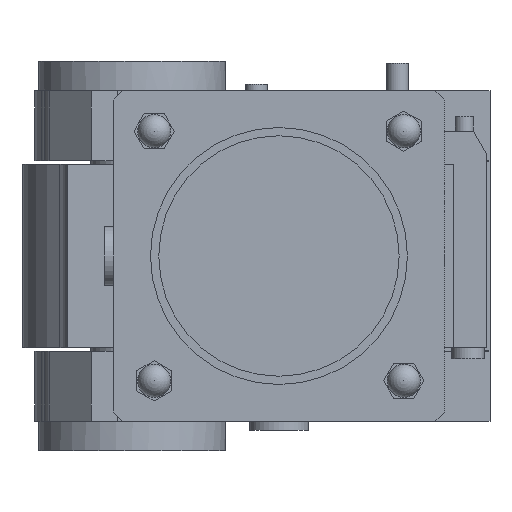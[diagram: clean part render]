
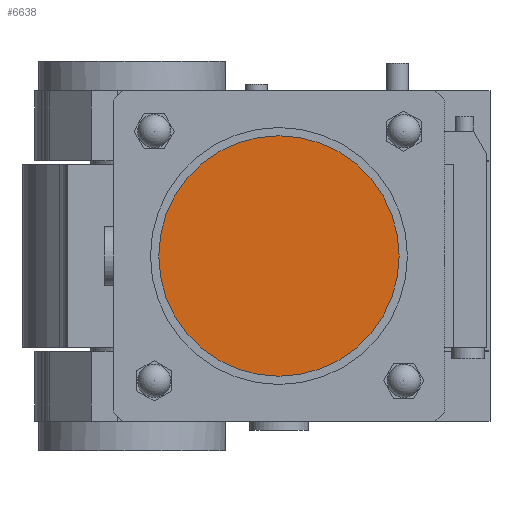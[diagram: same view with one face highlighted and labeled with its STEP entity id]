
A CAD part, front view. The second image highlights one B-rep face of the part: STEP entity #6638.
In plain terms, the highlighted planar face has unit normal (0, -1, 0).
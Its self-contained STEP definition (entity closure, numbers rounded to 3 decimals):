
#1524=PLANE('',#7335);
#2034=FACE_OUTER_BOUND('',#2536,.T.);
#2536=EDGE_LOOP('',(#5330));
#2877=CIRCLE('',#7246,65.5);
#3221=VERTEX_POINT('',#10231);
#3913=EDGE_CURVE('',#3221,#3221,#2877,.T.);
#5330=ORIENTED_EDGE('',*,*,#3913,.T.);
#6638=ADVANCED_FACE('',(#2034),#1524,.T.);
#7246=AXIS2_PLACEMENT_3D('',#10232,#8278,#8279);
#7335=AXIS2_PLACEMENT_3D('',#10544,#8576,#8577);
#8278=DIRECTION('center_axis',(0.,-1.,0.));
#8279=DIRECTION('ref_axis',(0.,0.,-1.));
#8576=DIRECTION('center_axis',(0.,-1.,0.));
#8577=DIRECTION('ref_axis',(0.,0.,-1.));
#10231=CARTESIAN_POINT('',(80.,-622.,65.5));
#10232=CARTESIAN_POINT('Origin',(80.,-622.,0.));
#10544=CARTESIAN_POINT('Origin',(80.,-622.,0.));
